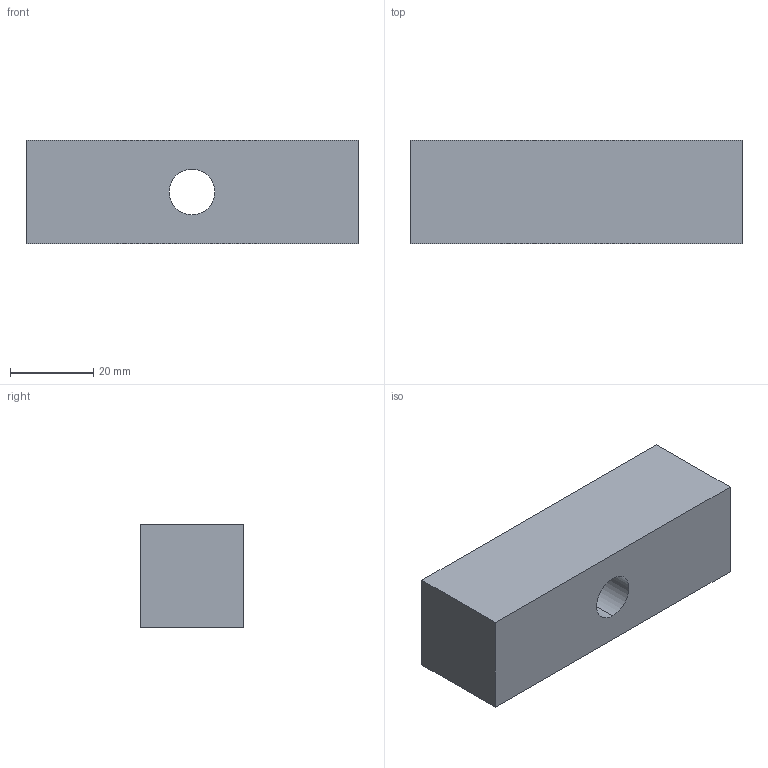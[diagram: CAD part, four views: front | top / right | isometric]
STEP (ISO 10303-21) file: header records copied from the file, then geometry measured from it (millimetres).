
FILE_DESCRIPTION(('CATIA V5 STEP Exchange'),'2;1');
FILE_NAME('C:\Users\Raffaele\Desktop\3D X SITO CF\760\GSB_OILLESS_M317042525080\STEP-2.03\760-2525080.stp','2019-07-04T13:11:46+00:00',('none'),('none'),'CATIA Version 5 Release 20 GA (IN-10)','CATIA V5 STEP AP203','none');
FILE_SCHEMA(('CONFIG_CONTROL_DESIGN'));
Length unit declared in the file: millimetre
Products named in the file (1): 760-2525080
Bounding box: 80 x 25 x 25 mm (x, y, z)
Volume: 44994.7 mm3; surface area: 10263.2 mm2
Topology: 1 solids, 1 shells, 11 faces, 32 edges, 24 vertices
Faces by surface type: plane 7, cylinder 4
Entity records: 464 total; most frequent: CARTESIAN_POINT 124, ORIENTED_EDGE 64, DIRECTION 50, EDGE_CURVE 32, AXIS2_PLACEMENT_3D 24, VERTEX_POINT 24, VECTOR 16, LINE 16
